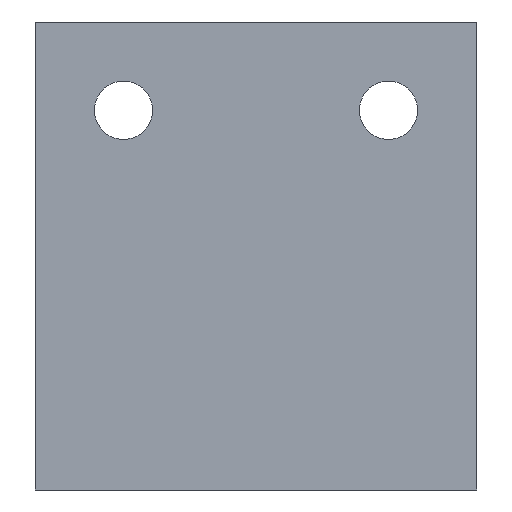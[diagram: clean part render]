
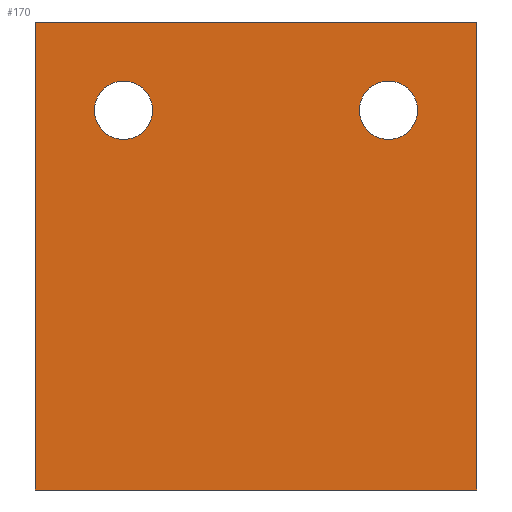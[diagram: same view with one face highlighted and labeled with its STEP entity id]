
A CAD part, front view. The second image highlights one B-rep face of the part: STEP entity #170.
In plain terms, the highlighted planar face has unit normal (0, -1, 0).
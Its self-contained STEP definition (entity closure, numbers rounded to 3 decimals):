
#4 = VERTEX_POINT ( 'NONE', #638 ) ;
#22 = LINE ( 'NONE', #528, #941 ) ;
#36 = VERTEX_POINT ( 'NONE', #757 ) ;
#37 = VERTEX_POINT ( 'NONE', #1455 ) ;
#48 = DIRECTION ( 'NONE',  ( 0., 0., 1. ) ) ;
#49 = CARTESIAN_POINT ( 'NONE',  ( 15., 0., 43. ) ) ;
#54 = FACE_OUTER_BOUND ( 'NONE', #1245, .T. ) ;
#55 = EDGE_CURVE ( 'NONE', #1411, #36, #1150, .T. ) ;
#74 = AXIS2_PLACEMENT_3D ( 'NONE', #1208, #503, #1318 ) ;
#110 = VECTOR ( 'NONE', #1448, 1000. ) ;
#118 = PLANE ( 'NONE',  #1445 ) ;
#127 = ORIENTED_EDGE ( 'NONE', *, *, #931, .T. ) ;
#138 = CIRCLE ( 'NONE', #557, 3.3 ) ;
#170 = ADVANCED_FACE ( 'NONE', ( #727, #364, #54 ), #118, .F. ) ;
#172 = DIRECTION ( 'NONE',  ( 0., 0., 1. ) ) ;
#353 = CARTESIAN_POINT ( 'NONE',  ( 25., 0., 53. ) ) ;
#354 = ORIENTED_EDGE ( 'NONE', *, *, #876, .T. ) ;
#364 = FACE_BOUND ( 'NONE', #938, .T. ) ;
#387 = EDGE_LOOP ( 'NONE', ( #753, #1067 ) ) ;
#442 = CARTESIAN_POINT ( 'NONE',  ( -15., 0., 39.7 ) ) ;
#491 = VECTOR ( 'NONE', #674, 1000. ) ;
#503 = DIRECTION ( 'NONE',  ( 0., 1., 0. ) ) ;
#528 = CARTESIAN_POINT ( 'NONE',  ( 25., 0., 0. ) ) ;
#550 = ORIENTED_EDGE ( 'NONE', *, *, #1343, .F. ) ;
#557 = AXIS2_PLACEMENT_3D ( 'NONE', #637, #1451, #755 ) ;
#565 = CARTESIAN_POINT ( 'NONE',  ( -25., 0., 53. ) ) ;
#595 = AXIS2_PLACEMENT_3D ( 'NONE', #49, #878, #172 ) ;
#598 = DIRECTION ( 'NONE',  ( 0., 0., 1. ) ) ;
#613 = ORIENTED_EDGE ( 'NONE', *, *, #1491, .T. ) ;
#628 = AXIS2_PLACEMENT_3D ( 'NONE', #1461, #761, #48 ) ;
#637 = CARTESIAN_POINT ( 'NONE',  ( -15., 0., 43. ) ) ;
#638 = CARTESIAN_POINT ( 'NONE',  ( -25., 0., 53. ) ) ;
#648 = DIRECTION ( 'NONE',  ( -1., 0., 0. ) ) ;
#669 = CARTESIAN_POINT ( 'NONE',  ( 25., 0., 53. ) ) ;
#674 = DIRECTION ( 'NONE',  ( 0., 0., -1. ) ) ;
#719 = CIRCLE ( 'NONE', #74, 3.3 ) ;
#727 = FACE_BOUND ( 'NONE', #387, .T. ) ;
#728 = ORIENTED_EDGE ( 'NONE', *, *, #55, .T. ) ;
#753 = ORIENTED_EDGE ( 'NONE', *, *, #910, .T. ) ;
#755 = DIRECTION ( 'NONE',  ( 0., 0., 1. ) ) ;
#757 = CARTESIAN_POINT ( 'NONE',  ( 15., 0., 46.3 ) ) ;
#761 = DIRECTION ( 'NONE',  ( 0., 1., 0. ) ) ;
#779 = CARTESIAN_POINT ( 'NONE',  ( -25., 0., 0. ) ) ;
#813 = LINE ( 'NONE', #669, #491 ) ;
#836 = EDGE_CURVE ( 'NONE', #1438, #1059, #719, .T. ) ;
#855 = LINE ( 'NONE', #565, #1444 ) ;
#876 = EDGE_CURVE ( 'NONE', #1500, #4, #1047, .T. ) ;
#878 = DIRECTION ( 'NONE',  ( 0., 1., 0. ) ) ;
#910 = EDGE_CURVE ( 'NONE', #1059, #1438, #138, .T. ) ;
#931 = EDGE_CURVE ( 'NONE', #36, #1411, #966, .T. ) ;
#938 = EDGE_LOOP ( 'NONE', ( #127, #728 ) ) ;
#941 = VECTOR ( 'NONE', #648, 1000. ) ;
#955 = EDGE_CURVE ( 'NONE', #37, #1299, #22, .T. ) ;
#966 = CIRCLE ( 'NONE', #628, 3.3 ) ;
#1047 = LINE ( 'NONE', #1327, #110 ) ;
#1055 = ORIENTED_EDGE ( 'NONE', *, *, #955, .F. ) ;
#1059 = VERTEX_POINT ( 'NONE', #1355 ) ;
#1067 = ORIENTED_EDGE ( 'NONE', *, *, #836, .T. ) ;
#1150 = CIRCLE ( 'NONE', #595, 3.3 ) ;
#1208 = CARTESIAN_POINT ( 'NONE',  ( -15., 0., 43. ) ) ;
#1245 = EDGE_LOOP ( 'NONE', ( #613, #1055, #550, #354 ) ) ;
#1271 = DIRECTION ( 'NONE',  ( 0., 0., -1. ) ) ;
#1294 = DIRECTION ( 'NONE',  ( 0., 1., 0. ) ) ;
#1299 = VERTEX_POINT ( 'NONE', #779 ) ;
#1318 = DIRECTION ( 'NONE',  ( 0., 0., 1. ) ) ;
#1327 = CARTESIAN_POINT ( 'NONE',  ( 25., 0., 53. ) ) ;
#1343 = EDGE_CURVE ( 'NONE', #1500, #37, #813, .T. ) ;
#1355 = CARTESIAN_POINT ( 'NONE',  ( -15., 0., 46.3 ) ) ;
#1375 = CARTESIAN_POINT ( 'NONE',  ( 15., 0., 39.7 ) ) ;
#1411 = VERTEX_POINT ( 'NONE', #1375 ) ;
#1438 = VERTEX_POINT ( 'NONE', #442 ) ;
#1444 = VECTOR ( 'NONE', #1271, 1000. ) ;
#1445 = AXIS2_PLACEMENT_3D ( 'NONE', #353, #1294, #598 ) ;
#1448 = DIRECTION ( 'NONE',  ( -1., 0., 0. ) ) ;
#1451 = DIRECTION ( 'NONE',  ( 0., 1., 0. ) ) ;
#1455 = CARTESIAN_POINT ( 'NONE',  ( 25., 0., 0. ) ) ;
#1461 = CARTESIAN_POINT ( 'NONE',  ( 15., 0., 43. ) ) ;
#1491 = EDGE_CURVE ( 'NONE', #4, #1299, #855, .T. ) ;
#1500 = VERTEX_POINT ( 'NONE', #1505 ) ;
#1505 = CARTESIAN_POINT ( 'NONE',  ( 25., 0., 53. ) ) ;
